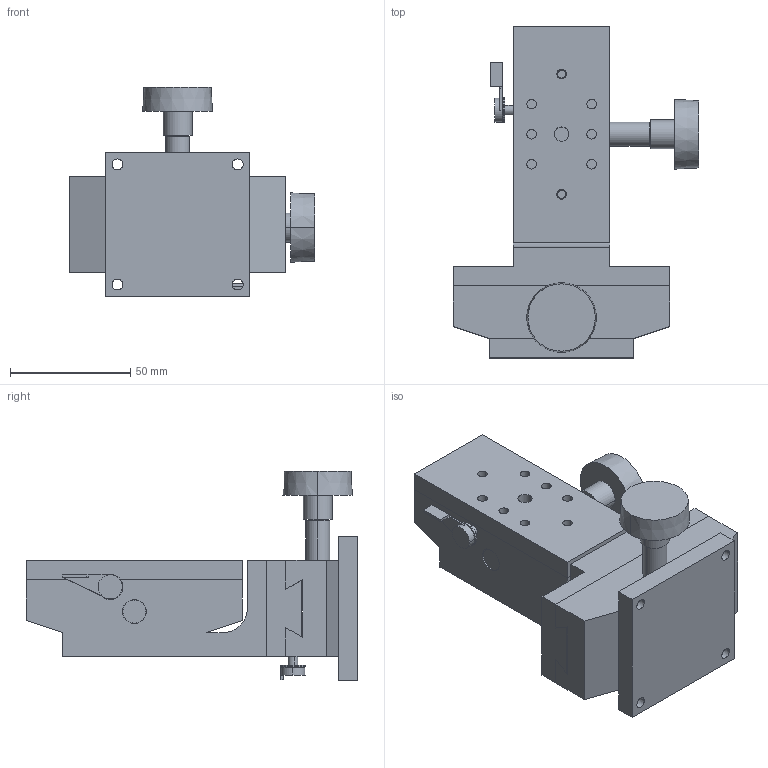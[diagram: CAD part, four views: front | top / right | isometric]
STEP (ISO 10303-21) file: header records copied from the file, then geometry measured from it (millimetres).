
FILE_DESCRIPTION (( 'STEP AP203' ), '1' );
FILE_NAME ('LM-912L.STEP', '2008-03-04T00:09:31', ( '' ), ( '' ), 'SwSTEP 2.0', 'SolidWorks 2007', '' );
FILE_SCHEMA (( 'CONFIG_CONTROL_DESIGN' ));
Length unit declared in the file: millimetre
Products named in the file (4): LM-912L; LM-912L-1; LM-912L-2; LM-912L-3
Assembly tree (3 placements, depth 2):
  LM-912L
    LM-912L-3
    LM-912L-1
    LM-912L-2
Bounding box: 102 x 138 x 87 mm (x, y, z)
Volume: 295954.3 mm3; surface area: 71284.9 mm2
Topology: 3 solids, 5 shells, 249 faces, 584 edges, 386 vertices
Faces by surface type: plane 132, cylinder 113, cone 4
Entity records: 7676 total; most frequent: DIRECTION 1334, CARTESIAN_POINT 1225, ORIENTED_EDGE 1168, EDGE_CURVE 584, AXIS2_PLACEMENT_3D 495, VERTEX_POINT 386, VECTOR 344, LINE 344
